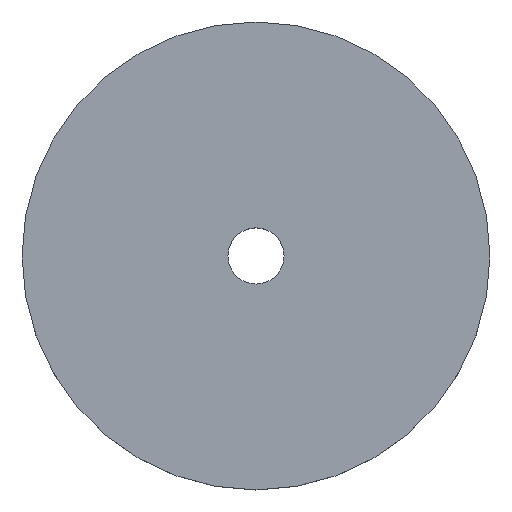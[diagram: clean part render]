
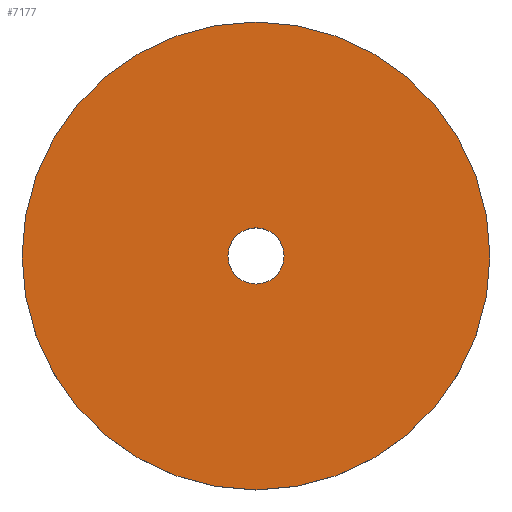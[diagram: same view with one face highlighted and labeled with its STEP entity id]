
A CAD part, top view. The second image highlights one B-rep face of the part: STEP entity #7177.
In plain terms, the highlighted planar face has unit normal (0, 0, 1).
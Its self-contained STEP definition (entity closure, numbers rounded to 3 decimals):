
#357=FACE_BOUND('',#1687,.T.);
#476=PLANE('',#8113);
#937=FACE_OUTER_BOUND('',#1686,.T.);
#1686=EDGE_LOOP('',(#5157));
#1687=EDGE_LOOP('',(#5158));
#3131=CIRCLE('',#8114,75.);
#3132=CIRCLE('',#8115,9.);
#3709=VERTEX_POINT('',#12390);
#3710=VERTEX_POINT('',#12392);
#4288=EDGE_CURVE('',#3709,#3709,#3131,.T.);
#4289=EDGE_CURVE('',#3710,#3710,#3132,.T.);
#5157=ORIENTED_EDGE('',*,*,#4288,.T.);
#5158=ORIENTED_EDGE('',*,*,#4289,.T.);
#7177=ADVANCED_FACE('',(#937,#357),#476,.T.);
#8113=AXIS2_PLACEMENT_3D('',#12389,#9447,#9448);
#8114=AXIS2_PLACEMENT_3D('',#12391,#9449,#9450);
#8115=AXIS2_PLACEMENT_3D('',#12393,#9451,#9452);
#9447=DIRECTION('center_axis',(0.,0.,1.));
#9448=DIRECTION('ref_axis',(1.,0.,0.));
#9449=DIRECTION('center_axis',(0.,0.,1.));
#9450=DIRECTION('ref_axis',(1.,0.,0.));
#9451=DIRECTION('center_axis',(0.,0.,-1.));
#9452=DIRECTION('ref_axis',(1.,0.,0.));
#12389=CARTESIAN_POINT('Origin',(0.,0.,14.));
#12390=CARTESIAN_POINT('',(-75.,0.,14.));
#12391=CARTESIAN_POINT('Origin',(0.,0.,14.));
#12392=CARTESIAN_POINT('',(-9.,0.,14.));
#12393=CARTESIAN_POINT('Origin',(0.,0.,14.));
